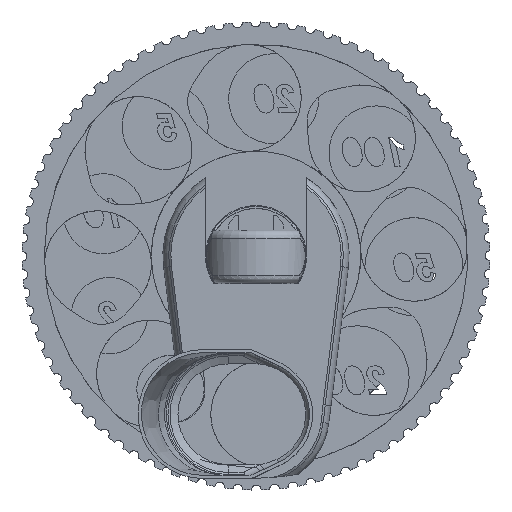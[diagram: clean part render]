
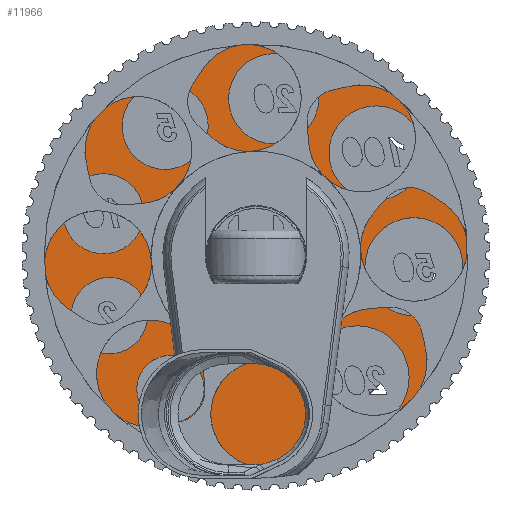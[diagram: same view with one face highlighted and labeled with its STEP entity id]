
A CAD part, top view. The second image highlights one B-rep face of the part: STEP entity #11966.
In plain terms, the highlighted planar face has unit normal (0, 0, 1).
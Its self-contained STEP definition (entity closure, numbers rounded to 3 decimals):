
#406=FACE_BOUND('',#2181,.T.);
#407=FACE_BOUND('',#2182,.T.);
#408=FACE_BOUND('',#2183,.T.);
#409=FACE_BOUND('',#2184,.T.);
#410=FACE_BOUND('',#2185,.T.);
#411=FACE_BOUND('',#2186,.T.);
#412=FACE_BOUND('',#2187,.T.);
#413=FACE_BOUND('',#2188,.T.);
#414=FACE_BOUND('',#2189,.T.);
#500=CIRCLE('',#12581,10.125);
#501=CIRCLE('',#12583,9.625);
#502=CIRCLE('',#12585,8.5);
#503=CIRCLE('',#12587,10.875);
#504=CIRCLE('',#12589,13.125);
#505=CIRCLE('',#12591,12.375);
#506=CIRCLE('',#12593,11.875);
#507=CIRCLE('',#12595,11.375);
#508=CIRCLE('',#12597,56.069);
#509=CIRCLE('',#12598,56.069);
#1123=PLANE('',#12596);
#1464=FACE_OUTER_BOUND('',#2180,.T.);
#2180=EDGE_LOOP('',(#8946,#8947));
#2181=EDGE_LOOP('',(#8948));
#2182=EDGE_LOOP('',(#8949));
#2183=EDGE_LOOP('',(#8950));
#2184=EDGE_LOOP('',(#8951));
#2185=EDGE_LOOP('',(#8952));
#2186=EDGE_LOOP('',(#8953));
#2187=EDGE_LOOP('',(#8954));
#2188=EDGE_LOOP('',(#8955));
#2189=EDGE_LOOP('',(#8956,#8957,#8958,#8959,#8960));
#2905=LINE('',#19665,#3713);
#2908=LINE('',#19670,#3716);
#2910=LINE('',#19674,#3718);
#2935=LINE('',#19820,#3743);
#2936=LINE('',#19821,#3744);
#3713=VECTOR('',#13961,10.);
#3716=VECTOR('',#13966,10.);
#3718=VECTOR('',#13970,10.);
#3743=VECTOR('',#14149,10.);
#3744=VECTOR('',#14150,10.);
#5045=VERTEX_POINT('',#19662);
#5046=VERTEX_POINT('',#19664);
#5047=VERTEX_POINT('',#19668);
#5048=VERTEX_POINT('',#19672);
#5082=VERTEX_POINT('',#19783);
#5083=VERTEX_POINT('',#19787);
#5084=VERTEX_POINT('',#19791);
#5085=VERTEX_POINT('',#19795);
#5086=VERTEX_POINT('',#19799);
#5087=VERTEX_POINT('',#19803);
#5088=VERTEX_POINT('',#19807);
#5089=VERTEX_POINT('',#19811);
#5090=VERTEX_POINT('',#19815);
#5091=VERTEX_POINT('',#19816);
#5092=VERTEX_POINT('',#19819);
#6446=EDGE_CURVE('',#5046,#5045,#2905,.T.);
#6449=EDGE_CURVE('',#5045,#5047,#2908,.T.);
#6451=EDGE_CURVE('',#5047,#5048,#2910,.T.);
#6501=EDGE_CURVE('',#5082,#5082,#500,.T.);
#6503=EDGE_CURVE('',#5083,#5083,#501,.T.);
#6505=EDGE_CURVE('',#5084,#5084,#502,.T.);
#6507=EDGE_CURVE('',#5085,#5085,#503,.T.);
#6509=EDGE_CURVE('',#5086,#5086,#504,.T.);
#6511=EDGE_CURVE('',#5087,#5087,#505,.T.);
#6513=EDGE_CURVE('',#5088,#5088,#506,.T.);
#6515=EDGE_CURVE('',#5089,#5089,#507,.T.);
#6517=EDGE_CURVE('',#5090,#5091,#508,.T.);
#6518=EDGE_CURVE('',#5091,#5090,#509,.T.);
#6519=EDGE_CURVE('',#5048,#5092,#2935,.T.);
#6520=EDGE_CURVE('',#5092,#5046,#2936,.T.);
#8946=ORIENTED_EDGE('',*,*,#6517,.T.);
#8947=ORIENTED_EDGE('',*,*,#6518,.T.);
#8948=ORIENTED_EDGE('',*,*,#6515,.T.);
#8949=ORIENTED_EDGE('',*,*,#6513,.T.);
#8950=ORIENTED_EDGE('',*,*,#6511,.T.);
#8951=ORIENTED_EDGE('',*,*,#6509,.T.);
#8952=ORIENTED_EDGE('',*,*,#6507,.T.);
#8953=ORIENTED_EDGE('',*,*,#6505,.T.);
#8954=ORIENTED_EDGE('',*,*,#6503,.T.);
#8955=ORIENTED_EDGE('',*,*,#6501,.T.);
#8956=ORIENTED_EDGE('',*,*,#6446,.T.);
#8957=ORIENTED_EDGE('',*,*,#6449,.T.);
#8958=ORIENTED_EDGE('',*,*,#6451,.T.);
#8959=ORIENTED_EDGE('',*,*,#6519,.T.);
#8960=ORIENTED_EDGE('',*,*,#6520,.T.);
#11966=ADVANCED_FACE('',(#1464,#406,#407,#408,#409,#410,#411,#412,#413,
#414),#1123,.T.);
#12581=AXIS2_PLACEMENT_3D('',#19784,#14105,#14106);
#12583=AXIS2_PLACEMENT_3D('',#19788,#14110,#14111);
#12585=AXIS2_PLACEMENT_3D('',#19792,#14115,#14116);
#12587=AXIS2_PLACEMENT_3D('',#19796,#14120,#14121);
#12589=AXIS2_PLACEMENT_3D('',#19800,#14125,#14126);
#12591=AXIS2_PLACEMENT_3D('',#19804,#14130,#14131);
#12593=AXIS2_PLACEMENT_3D('',#19808,#14135,#14136);
#12595=AXIS2_PLACEMENT_3D('',#19812,#14140,#14141);
#12596=AXIS2_PLACEMENT_3D('',#19814,#14143,#14144);
#12597=AXIS2_PLACEMENT_3D('',#19817,#14145,#14146);
#12598=AXIS2_PLACEMENT_3D('',#19818,#14147,#14148);
#13961=DIRECTION('',(0.,-1.,0.));
#13966=DIRECTION('',(-0.707,-0.707,0.));
#13970=DIRECTION('',(-1.,0.,0.));
#14105=DIRECTION('center_axis',(0.,0.,-1.));
#14106=DIRECTION('ref_axis',(1.,0.,0.));
#14110=DIRECTION('center_axis',(0.,0.,-1.));
#14111=DIRECTION('ref_axis',(1.,0.,0.));
#14115=DIRECTION('center_axis',(0.,0.,-1.));
#14116=DIRECTION('ref_axis',(1.,0.,0.));
#14120=DIRECTION('center_axis',(0.,0.,-1.));
#14121=DIRECTION('ref_axis',(1.,0.,0.));
#14125=DIRECTION('center_axis',(0.,0.,-1.));
#14126=DIRECTION('ref_axis',(1.,0.,0.));
#14130=DIRECTION('center_axis',(0.,0.,-1.));
#14131=DIRECTION('ref_axis',(1.,0.,0.));
#14135=DIRECTION('center_axis',(0.,0.,-1.));
#14136=DIRECTION('ref_axis',(1.,0.,0.));
#14140=DIRECTION('center_axis',(0.,0.,-1.));
#14141=DIRECTION('ref_axis',(1.,0.,0.));
#14143=DIRECTION('center_axis',(0.,0.,1.));
#14144=DIRECTION('ref_axis',(1.,0.,0.));
#14145=DIRECTION('center_axis',(0.,0.,1.));
#14146=DIRECTION('ref_axis',(1.,0.,0.));
#14147=DIRECTION('center_axis',(0.,0.,1.));
#14148=DIRECTION('ref_axis',(1.,0.,0.));
#14149=DIRECTION('',(0.,1.,0.));
#14150=DIRECTION('',(1.,0.,0.));
#19662=CARTESIAN_POINT('',(15.,-10.,3.));
#19664=CARTESIAN_POINT('',(15.,15.,3.));
#19665=CARTESIAN_POINT('',(15.,15.,3.));
#19668=CARTESIAN_POINT('',(10.,-15.,3.));
#19670=CARTESIAN_POINT('',(15.,-10.,3.));
#19672=CARTESIAN_POINT('',(-15.,-15.,3.));
#19674=CARTESIAN_POINT('',(15.,-15.,3.));
#19783=CARTESIAN_POINT('',(-48.621,10.66,3.));
#19784=CARTESIAN_POINT('Origin',(-38.496,10.66,3.));
#19787=CARTESIAN_POINT('',(-46.627,-15.047,3.));
#19788=CARTESIAN_POINT('Origin',(-37.002,-15.047,3.));
#19791=CARTESIAN_POINT('',(-30.089,-33.607,3.));
#19792=CARTESIAN_POINT('Origin',(-21.589,-33.607,3.));
#19795=CARTESIAN_POINT('',(-33.795,32.714,3.));
#19796=CARTESIAN_POINT('Origin',(-22.92,32.714,3.));
#19799=CARTESIAN_POINT('',(12.389,-30.734,3.));
#19800=CARTESIAN_POINT('Origin',(25.514,-30.734,3.));
#19803=CARTESIAN_POINT('',(27.479,-2.688,3.));
#19804=CARTESIAN_POINT('Origin',(39.854,-2.688,3.));
#19807=CARTESIAN_POINT('',(18.434,26.017,3.));
#19808=CARTESIAN_POINT('Origin',(30.309,26.017,3.));
#19811=CARTESIAN_POINT('',(-6.921,39.695,3.));
#19812=CARTESIAN_POINT('Origin',(4.454,39.695,3.));
#19814=CARTESIAN_POINT('Origin',(0.,0.,3.));
#19815=CARTESIAN_POINT('',(-56.069,0.,3.));
#19816=CARTESIAN_POINT('',(56.069,0.,3.));
#19817=CARTESIAN_POINT('Origin',(0.,0.,3.));
#19818=CARTESIAN_POINT('Origin',(0.,0.,3.));
#19819=CARTESIAN_POINT('',(-15.,15.,3.));
#19820=CARTESIAN_POINT('',(-15.,-15.,3.));
#19821=CARTESIAN_POINT('',(-15.,15.,3.));
